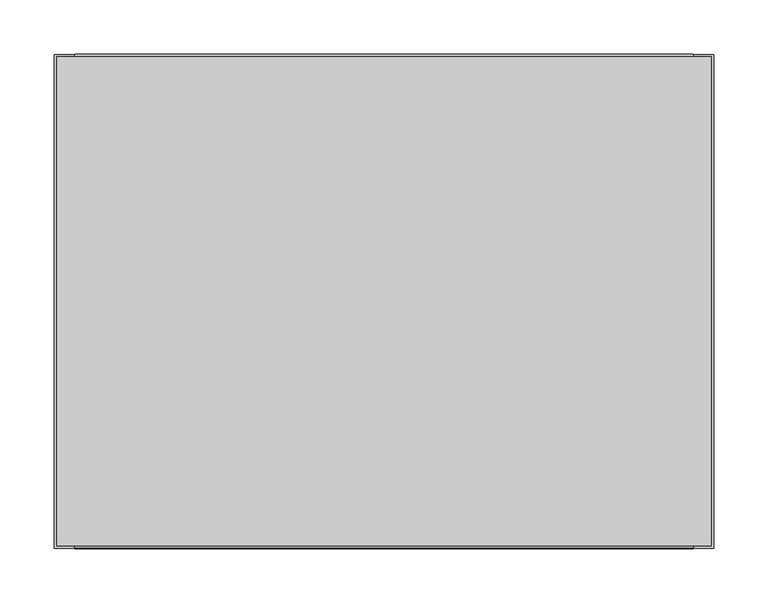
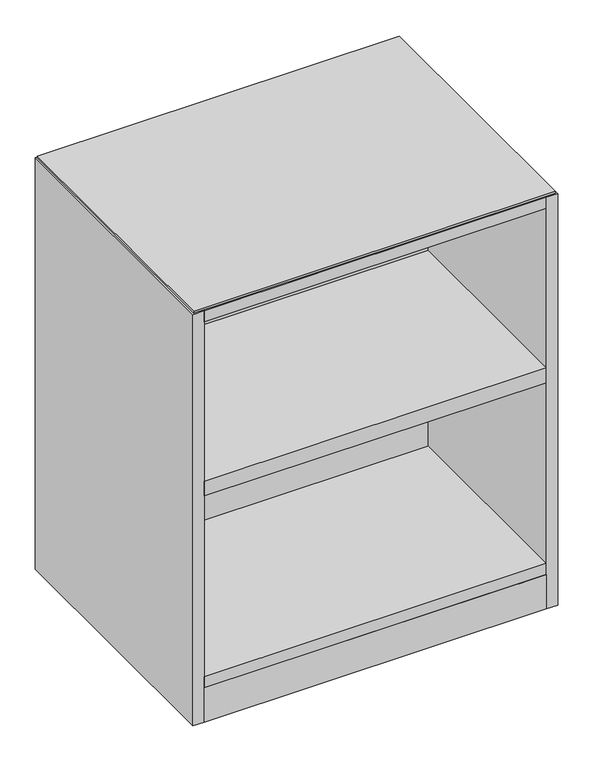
"""IFC4 building model written with IfcOpenShell, lengths in millimetres: furniture geometry, Geiger_GeigerOneCasegoods_LowStorageOpen : Vertical Veneer 24Wx 18Dx28.75H."""

from ifc_helpers import new_model, si_unit, point, frame, origin, place, context, project, spatial, polyline, circle_curve, ellipse_curve, trimmed, outline, extrude, source, transform, mapped, element, save
from ifc_brep_helpers import plane_surface, cylinder_surface, revolved_surface, advanced_brep


def furniture_8e260646(model_context):
    return source(origin(), model_context, "Body", "SolidModel", [
        extrude(outline(polyline([(19.0, -19.5), (590.6, -19.5), (590.6, -437.7), (19.0, -437.7), (19.0, -19.5)])), frame((0.0, 0.0, 12.7), z_axis=(0.0, 0.0, 1.0), x_axis=(1.0, 0.0, 0.0)), (0.0, 0.0, 1.0), 19.5),
        extrude(outline(polyline([(607.06, -2.54), (607.06, -454.66), (2.54, -454.66), (2.54, -2.54), (607.06, -2.54)])), frame((0.0, 0.0, 739.5), z_axis=(0.0, 0.0, 1.0), x_axis=(1.0, 0.0, 0.0)), (0.0, 0.0, 1.0), 3.2766),
        extrude(outline(polyline([(19.0, -95.7), (590.6, -95.7), (590.6, -456.7), (19.0, -456.7), (19.0, -95.7)])), frame((0.0, 0.0, 720.0), z_axis=(0.0, 0.0, 1.0), x_axis=(1.0, 0.0, 0.0)), (0.0, 0.0, 1.0), 19.5),
        extrude(outline(polyline([(19.0, -95.5), (590.6, -95.5), (590.6, -114.5), (19.0, -114.5), (19.0, -95.5)])), frame((0.0, 0.0, 73.2), z_axis=(0.0, 0.0, 1.0), x_axis=(1.0, 0.0, 0.0)), (0.0, 0.0, 1.0), 614.8),
        extrude(outline(polyline([(19.0, -114.5), (590.6, -114.5), (590.6, -456.7), (19.0, -456.7), (19.0, -114.5)])), frame((0.0, 0.0, 412.2928), z_axis=(0.0, 0.0, 1.0), x_axis=(1.0, 0.0, 0.0)), (0.0, 0.0, 1.0), 26.0008),
        extrude(outline(polyline([(19.0, -114.5), (590.6, -114.5), (590.6, -456.7), (19.0, -456.7), (19.0, -114.5)])), frame((0.0, 0.0, 73.2), z_axis=(0.0, 0.0, 1.0), x_axis=(1.0, 0.0, 0.0)), (0.0, 0.0, 1.0), 19.5),
        extrude(outline(polyline([(590.6, -19.5), (19.0, -19.5), (19.0, 0.0), (590.6, 0.0), (590.6, -19.5)])), frame((0.0, 0.0, 12.7), z_axis=(0.0, 0.0, 1.0), x_axis=(1.0, 0.0, 0.0)), (0.0, 0.0, 1.0), 726.8),
        extrude(outline(polyline([(19.0, -437.7), (590.6, -437.7), (590.6, -457.2), (19.0, -457.2), (19.0, -437.7)])), frame((0.0, 0.0, 12.7), z_axis=(0.0, 0.0, 1.0), x_axis=(1.0, 0.0, 0.0)), (0.0, 0.0, 1.0), 60.5),
        extrude(outline(polyline([(19.0, -457.2), (0.0, -457.2), (0.0, -0.5), (19.0, -0.5), (19.0, -457.2)])), frame((0.0, 0.0, 12.7), z_axis=(0.0, 0.0, 1.0), x_axis=(1.0, 0.0, 0.0)), (0.0, 0.0, 1.0), 726.8),
        extrude(outline(polyline([(609.6, -457.2), (590.6, -457.2), (590.6, -0.5), (609.6, -0.5), (609.6, -457.2)])), frame((0.0, 0.0, 12.7), z_axis=(0.0, 0.0, 1.0), x_axis=(1.0, 0.0, 0.0)), (0.0, 0.0, 1.0), 726.8),
        advanced_brep(
        [(94.0575663, -399.7, 0.0), (71.9424337, -399.7, 0.0), (83.0, -399.7, 0.0), (94.0575663, -399.7, 9.5), (71.9424337, -399.7, 9.5), (87.066455, -399.7, 9.5), (78.933545, -399.7, 9.5), (87.066455, -399.7, 12.7), (78.933545, -399.7, 12.7), (83.0, -399.7, 12.7)],
        [
            (0, 1, circle_curve(frame((83.0, -399.7, 0.0), z_axis=(0.0, 0.0, -1.0), x_axis=(-1.0, 0.0, 0.0)), 11.0575663)),
            (1, 2),
            (2, 0),
            (1, 0, circle_curve(frame((83.0, -399.7, 0.0), z_axis=(0.0, 0.0, -1.0), x_axis=(-1.0, 0.0, 0.0)), 11.0575663)),
            (0, 3, circle_curve(frame((94.0575663, -399.7, 4.75), z_axis=(0.0, -1.0, 0.0), x_axis=(1.0, 0.0, 0.0)), 4.75)),
            (3, 4, circle_curve(frame((83.0, -399.7, 9.5), z_axis=(0.0, 0.0, -1.0), x_axis=(-1.0, 0.0, 0.0)), 11.0575663)),
            (4, 1, circle_curve(frame((71.9424337, -399.7, 4.75), z_axis=(0.0, -1.0, 0.0), x_axis=(-1.0, 0.0, 0.0)), 4.75)),
            (4, 3, circle_curve(frame((83.0, -399.7, 9.5), z_axis=(0.0, 0.0, -1.0), x_axis=(-1.0, 0.0, 0.0)), 11.0575663)),
            (3, 5),
            (5, 6, circle_curve(frame((83.0, -399.7, 9.5), z_axis=(0.0, 0.0, -1.0), x_axis=(-1.0, 0.0, 0.0)), 4.066455)),
            (6, 4),
            (6, 5, circle_curve(frame((83.0, -399.7, 9.5), z_axis=(0.0, 0.0, -1.0), x_axis=(-1.0, 0.0, 0.0)), 4.066455)),
            (5, 7),
            (7, 8, circle_curve(frame((83.0, -399.7, 12.7), z_axis=(0.0, 0.0, -1.0), x_axis=(-1.0, 0.0, 0.0)), 4.066455)),
            (8, 6),
            (8, 7, circle_curve(frame((83.0, -399.7, 12.7), z_axis=(0.0, 0.0, -1.0), x_axis=(-1.0, 0.0, 0.0)), 4.066455)),
            (7, 9),
            (9, 8),
        ],
        [
            plane_surface(frame((83.0, -399.7, 0.0), z_axis=(0.0, 0.0, -1.0), x_axis=(-1.0, 0.0, 0.0))),
            revolved_surface(trimmed(ellipse_curve(frame((71.9424337, -399.7, 4.75), z_axis=(0.0, 1.0, 0.0), x_axis=(-1.0, 0.0, 0.0)), 4.75, 4.75), [point((71.9424337, -399.7, 0.0))], [point((71.9424337, -399.7, 9.5))], True, "CARTESIAN"), (83.0, -399.7, 0.0), (0.0, 0.0, 1.0)),
            plane_surface(frame((83.0, -399.7, 9.5), z_axis=(0.0, 0.0, 1.0), x_axis=(-1.0, 0.0, 0.0))),
            cylinder_surface(frame((83.0, -399.7, 0.0), z_axis=(0.0, 0.0, 1.0), x_axis=(-1.0, 0.0, 0.0)), 4.066455),
            plane_surface(frame((83.0, -399.7, 12.7), z_axis=(0.0, 0.0, 1.0), x_axis=(-1.0, 0.0, 0.0))),
        ],
        [
            (0, [[1, 2, 3]]),
            (0, [[-2, 4, -3]]),
            (1, [[-1, 5, 6, 7]]),
            (1, [[-4, -7, 8, -5]]),
            (2, [[-6, 9, 10, 11]]),
            (2, [[-8, -11, 12, -9]]),
            (3, [[-10, 13, 14, 15]]),
            (3, [[-12, -15, 16, -13]]),
            (4, [[-14, 17, 18]]),
            (4, [[-16, -18, -17]]),
        ],
    ),
        advanced_brep(
        [(94.0575663, -127.0, 0.0), (71.9424337, -127.0, 0.0), (83.0, -127.0, 0.0), (94.0575663, -127.0, 9.5), (71.9424337, -127.0, 9.5), (87.066455, -127.0, 9.5), (78.933545, -127.0, 9.5), (87.066455, -127.0, 12.7), (78.933545, -127.0, 12.7), (83.0, -127.0, 12.7)],
        [
            (0, 1, circle_curve(frame((83.0, -127.0, 0.0), z_axis=(0.0, 0.0, -1.0), x_axis=(-1.0, 0.0, 0.0)), 11.0575663)),
            (1, 2),
            (2, 0),
            (1, 0, circle_curve(frame((83.0, -127.0, 0.0), z_axis=(0.0, 0.0, -1.0), x_axis=(-1.0, 0.0, 0.0)), 11.0575663)),
            (0, 3, circle_curve(frame((94.0575663, -127.0, 4.75), z_axis=(0.0, -1.0, 0.0), x_axis=(1.0, 0.0, 0.0)), 4.75)),
            (3, 4, circle_curve(frame((83.0, -127.0, 9.5), z_axis=(0.0, 0.0, -1.0), x_axis=(-1.0, 0.0, 0.0)), 11.0575663)),
            (4, 1, circle_curve(frame((71.9424337, -127.0, 4.75), z_axis=(0.0, -1.0, 0.0), x_axis=(-1.0, 0.0, 0.0)), 4.75)),
            (4, 3, circle_curve(frame((83.0, -127.0, 9.5), z_axis=(0.0, 0.0, -1.0), x_axis=(-1.0, 0.0, 0.0)), 11.0575663)),
            (3, 5),
            (5, 6, circle_curve(frame((83.0, -127.0, 9.5), z_axis=(0.0, 0.0, -1.0), x_axis=(-1.0, 0.0, 0.0)), 4.066455)),
            (6, 4),
            (6, 5, circle_curve(frame((83.0, -127.0, 9.5), z_axis=(0.0, 0.0, -1.0), x_axis=(-1.0, 0.0, 0.0)), 4.066455)),
            (5, 7),
            (7, 8, circle_curve(frame((83.0, -127.0, 12.7), z_axis=(0.0, 0.0, -1.0), x_axis=(-1.0, 0.0, 0.0)), 4.066455)),
            (8, 6),
            (8, 7, circle_curve(frame((83.0, -127.0, 12.7), z_axis=(0.0, 0.0, -1.0), x_axis=(-1.0, 0.0, 0.0)), 4.066455)),
            (7, 9),
            (9, 8),
        ],
        [
            plane_surface(frame((83.0, -127.0, 0.0), z_axis=(0.0, 0.0, -1.0), x_axis=(-1.0, 0.0, 0.0))),
            revolved_surface(trimmed(ellipse_curve(frame((71.9424337, -127.0, 4.75), z_axis=(0.0, 1.0, 0.0), x_axis=(-1.0, 0.0, 0.0)), 4.75, 4.75), [point((71.9424337, -127.0, 0.0))], [point((71.9424337, -127.0, 9.5))], True, "CARTESIAN"), (83.0, -127.0, 0.0), (0.0, 0.0, 1.0)),
            plane_surface(frame((83.0, -127.0, 9.5), z_axis=(0.0, 0.0, 1.0), x_axis=(-1.0, 0.0, 0.0))),
            cylinder_surface(frame((83.0, -127.0, 0.0), z_axis=(0.0, 0.0, 1.0), x_axis=(-1.0, 0.0, 0.0)), 4.066455),
            plane_surface(frame((83.0, -127.0, 12.7), z_axis=(0.0, 0.0, 1.0), x_axis=(-1.0, 0.0, 0.0))),
        ],
        [
            (0, [[1, 2, 3]]),
            (0, [[-2, 4, -3]]),
            (1, [[-1, 5, 6, 7]]),
            (1, [[-4, -7, 8, -5]]),
            (2, [[-6, 9, 10, 11]]),
            (2, [[-8, -11, 12, -9]]),
            (3, [[-10, 13, 14, 15]]),
            (3, [[-12, -15, 16, -13]]),
            (4, [[-14, 17, 18]]),
            (4, [[-16, -18, -17]]),
        ],
    ),
        advanced_brep(
        [(526.6, -399.7, 0.0), (537.6575663, -399.7, 0.0), (515.5424337, -399.7, 0.0), (537.6575663, -399.7, 9.5), (515.5424337, -399.7, 9.5), (530.666455, -399.7, 9.5), (522.533545, -399.7, 9.5), (530.666455, -399.7, 12.7), (522.533545, -399.7, 12.7), (526.6, -399.7, 12.7)],
        [
            (0, 1),
            (1, 2, circle_curve(frame((526.6, -399.7, 0.0), z_axis=(0.0, 0.0, -1.0), x_axis=(1.0, 0.0, 0.0)), 11.0575663)),
            (2, 0),
            (2, 1, circle_curve(frame((526.6, -399.7, 0.0), z_axis=(0.0, 0.0, -1.0), x_axis=(1.0, 0.0, 0.0)), 11.0575663)),
            (1, 3, circle_curve(frame((537.6575663, -399.7, 4.75), z_axis=(0.0, -1.0, 0.0), x_axis=(-1.0, 0.0, 0.0)), 4.75)),
            (3, 4, circle_curve(frame((526.6, -399.7, 9.5), z_axis=(0.0, 0.0, -1.0), x_axis=(1.0, 0.0, 0.0)), 11.0575663)),
            (4, 2, circle_curve(frame((515.5424337, -399.7, 4.75), z_axis=(0.0, -1.0, 0.0), x_axis=(1.0, 0.0, 0.0)), 4.75)),
            (4, 3, circle_curve(frame((526.6, -399.7, 9.5), z_axis=(0.0, 0.0, -1.0), x_axis=(1.0, 0.0, 0.0)), 11.0575663)),
            (3, 5),
            (5, 6, circle_curve(frame((526.6, -399.7, 9.5), z_axis=(0.0, 0.0, -1.0), x_axis=(1.0, 0.0, 0.0)), 4.066455)),
            (6, 4),
            (6, 5, circle_curve(frame((526.6, -399.7, 9.5), z_axis=(0.0, 0.0, -1.0), x_axis=(1.0, 0.0, 0.0)), 4.066455)),
            (5, 7),
            (7, 8, circle_curve(frame((526.6, -399.7, 12.7), z_axis=(0.0, 0.0, -1.0), x_axis=(1.0, 0.0, 0.0)), 4.066455)),
            (8, 6),
            (8, 7, circle_curve(frame((526.6, -399.7, 12.7), z_axis=(0.0, 0.0, -1.0), x_axis=(1.0, 0.0, 0.0)), 4.066455)),
            (7, 9),
            (9, 8),
        ],
        [
            plane_surface(frame((526.6, -399.7, 0.0), z_axis=(0.0, 0.0, -1.0), x_axis=(1.0, 0.0, 0.0))),
            revolved_surface(trimmed(ellipse_curve(frame((537.6575663, -399.7, 4.75), z_axis=(0.0, 1.0, 0.0), x_axis=(-1.0, 0.0, 0.0)), 4.75, 4.75), [point((537.6575663, -399.7, 9.5))], [point((537.6575663, -399.7, 0.0))], True, "CARTESIAN"), (526.6, -399.7, 0.0), (0.0, 0.0, -1.0)),
            plane_surface(frame((526.6, -399.7, 9.5), z_axis=(0.0, 0.0, 1.0), x_axis=(1.0, 0.0, 0.0))),
            cylinder_surface(frame((526.6, -399.7, 0.0), z_axis=(0.0, 0.0, -1.0), x_axis=(1.0, 0.0, 0.0)), 4.066455),
            plane_surface(frame((526.6, -399.7, 12.7), z_axis=(0.0, 0.0, 1.0), x_axis=(1.0, 0.0, 0.0))),
        ],
        [
            (0, [[1, 2, 3]]),
            (0, [[-1, -3, 4]]),
            (1, [[-2, 5, 6, 7]]),
            (1, [[-4, -7, 8, -5]]),
            (2, [[-6, 9, 10, 11]]),
            (2, [[-8, -11, 12, -9]]),
            (3, [[-10, 13, 14, 15]]),
            (3, [[-12, -15, 16, -13]]),
            (4, [[-14, 17, 18]]),
            (4, [[-16, -18, -17]]),
        ],
    ),
        advanced_brep(
        [(526.6, -127.0, 0.0), (537.6575663, -127.0, 0.0), (515.5424337, -127.0, 0.0), (537.6575663, -127.0, 9.5), (515.5424337, -127.0, 9.5), (530.666455, -127.0, 9.5), (522.533545, -127.0, 9.5), (530.666455, -127.0, 12.7), (522.533545, -127.0, 12.7), (526.6, -127.0, 12.7)],
        [
            (0, 1),
            (1, 2, circle_curve(frame((526.6, -127.0, 0.0), z_axis=(0.0, 0.0, -1.0), x_axis=(1.0, 0.0, 0.0)), 11.0575663)),
            (2, 0),
            (2, 1, circle_curve(frame((526.6, -127.0, 0.0), z_axis=(0.0, 0.0, -1.0), x_axis=(1.0, 0.0, 0.0)), 11.0575663)),
            (1, 3, circle_curve(frame((537.6575663, -127.0, 4.75), z_axis=(0.0, -1.0, 0.0), x_axis=(-1.0, 0.0, 0.0)), 4.75)),
            (3, 4, circle_curve(frame((526.6, -127.0, 9.5), z_axis=(0.0, 0.0, -1.0), x_axis=(1.0, 0.0, 0.0)), 11.0575663)),
            (4, 2, circle_curve(frame((515.5424337, -127.0, 4.75), z_axis=(0.0, -1.0, 0.0), x_axis=(1.0, 0.0, 0.0)), 4.75)),
            (4, 3, circle_curve(frame((526.6, -127.0, 9.5), z_axis=(0.0, 0.0, -1.0), x_axis=(1.0, 0.0, 0.0)), 11.0575663)),
            (3, 5),
            (5, 6, circle_curve(frame((526.6, -127.0, 9.5), z_axis=(0.0, 0.0, -1.0), x_axis=(1.0, 0.0, 0.0)), 4.066455)),
            (6, 4),
            (6, 5, circle_curve(frame((526.6, -127.0, 9.5), z_axis=(0.0, 0.0, -1.0), x_axis=(1.0, 0.0, 0.0)), 4.066455)),
            (5, 7),
            (7, 8, circle_curve(frame((526.6, -127.0, 12.7), z_axis=(0.0, 0.0, -1.0), x_axis=(1.0, 0.0, 0.0)), 4.066455)),
            (8, 6),
            (8, 7, circle_curve(frame((526.6, -127.0, 12.7), z_axis=(0.0, 0.0, -1.0), x_axis=(1.0, 0.0, 0.0)), 4.066455)),
            (7, 9),
            (9, 8),
        ],
        [
            plane_surface(frame((526.6, -127.0, 0.0), z_axis=(0.0, 0.0, -1.0), x_axis=(1.0, 0.0, 0.0))),
            revolved_surface(trimmed(ellipse_curve(frame((537.6575663, -127.0, 4.75), z_axis=(0.0, 1.0, 0.0), x_axis=(-1.0, 0.0, 0.0)), 4.75, 4.75), [point((537.6575663, -127.0, 9.5))], [point((537.6575663, -127.0, 0.0))], True, "CARTESIAN"), (526.6, -127.0, 0.0), (0.0, 0.0, -1.0)),
            plane_surface(frame((526.6, -127.0, 9.5), z_axis=(0.0, 0.0, 1.0), x_axis=(1.0, 0.0, 0.0))),
            cylinder_surface(frame((526.6, -127.0, 0.0), z_axis=(0.0, 0.0, -1.0), x_axis=(1.0, 0.0, 0.0)), 4.066455),
            plane_surface(frame((526.6, -127.0, 12.7), z_axis=(0.0, 0.0, 1.0), x_axis=(1.0, 0.0, 0.0))),
        ],
        [
            (0, [[1, 2, 3]]),
            (0, [[-1, -3, 4]]),
            (1, [[-2, 5, 6, 7]]),
            (1, [[-4, -7, 8, -5]]),
            (2, [[-6, 9, 10, 11]]),
            (2, [[-8, -11, 12, -9]]),
            (3, [[-10, 13, 14, 15]]),
            (3, [[-12, -15, 16, -13]]),
            (4, [[-14, 17, 18]]),
            (4, [[-16, -18, -17]]),
        ],
    ),
    ])


if __name__ == "__main__":
    model = new_model("IFC4")
    model_context = context("Model", 3, world=origin())
    ifc_project = project(units=[si_unit("LENGTHUNIT", "METRE", prefix="MILLI")], contexts=[model_context])
    site = spatial("IfcSite", under=ifc_project)
    building = spatial("IfcBuilding", under=site)
    placement = place(None, origin())
    furniture_shape = furniture_8e260646(model_context)
    element("IfcFurniture", 1, ObjectType="Geiger_GeigerOneCasegoods_LowStorageOpen : Vertical Veneer 24Wx 18Dx28.75H", at=placement, inside=building, context=model_context, shape_type="MappedRepresentation", body=[
        mapped(furniture_shape, transform((0.0, 0.0, 0.0), x_axis=(1.0, 0.0, 0.0), y_axis=(0.0, 1.0, 0.0), z_axis=(0.0, 0.0, 1.0))),
    ])
    save(model, "model.ifc")
